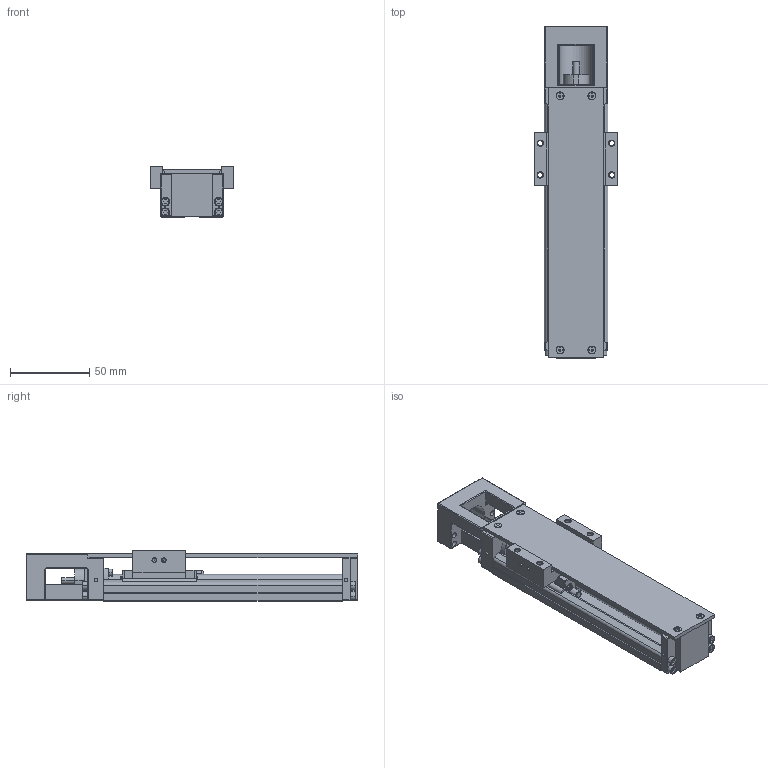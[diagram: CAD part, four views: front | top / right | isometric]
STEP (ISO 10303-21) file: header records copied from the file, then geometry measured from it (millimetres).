
FILE_DESCRIPTION(('no description'),'unknown implementation level');
FILE_NAME('KK4001P150A1F0C00_FILE_5.stp',' ',('HIWIN GmbH'),('CADClick - KiM GmbH - www.kimweb.de'),'unknown preprocess','ACIS','unknown authorization');
FILE_SCHEMA(('automotive_design'));
Length unit declared in the file: millimetre
Products named in the file (2): KK40_FILE; KK4001P150A1F0C00_FILE
Bounding box: 52 x 209 x 32 mm (x, y, z)
Volume: 134227.9 mm3; surface area: 64246.4 mm2
Topology: 2 solids, 18 shells, 989 faces, 2565 edges, 1628 vertices
Faces by surface type: plane 559, cylinder 322, cone 56, torus 46, sphere 6
Entity records: 60230 total; most frequent: CARTESIAN_POINT 6628, DIRECTION 5254, STYLED_ITEM 5172, PRESENTATION_STYLE_ASSIGNMENT 5172, COLOUR_RGB 5172, ORIENTED_EDGE 5106, EDGE_CURVE 2553, CURVE_STYLE 2553
